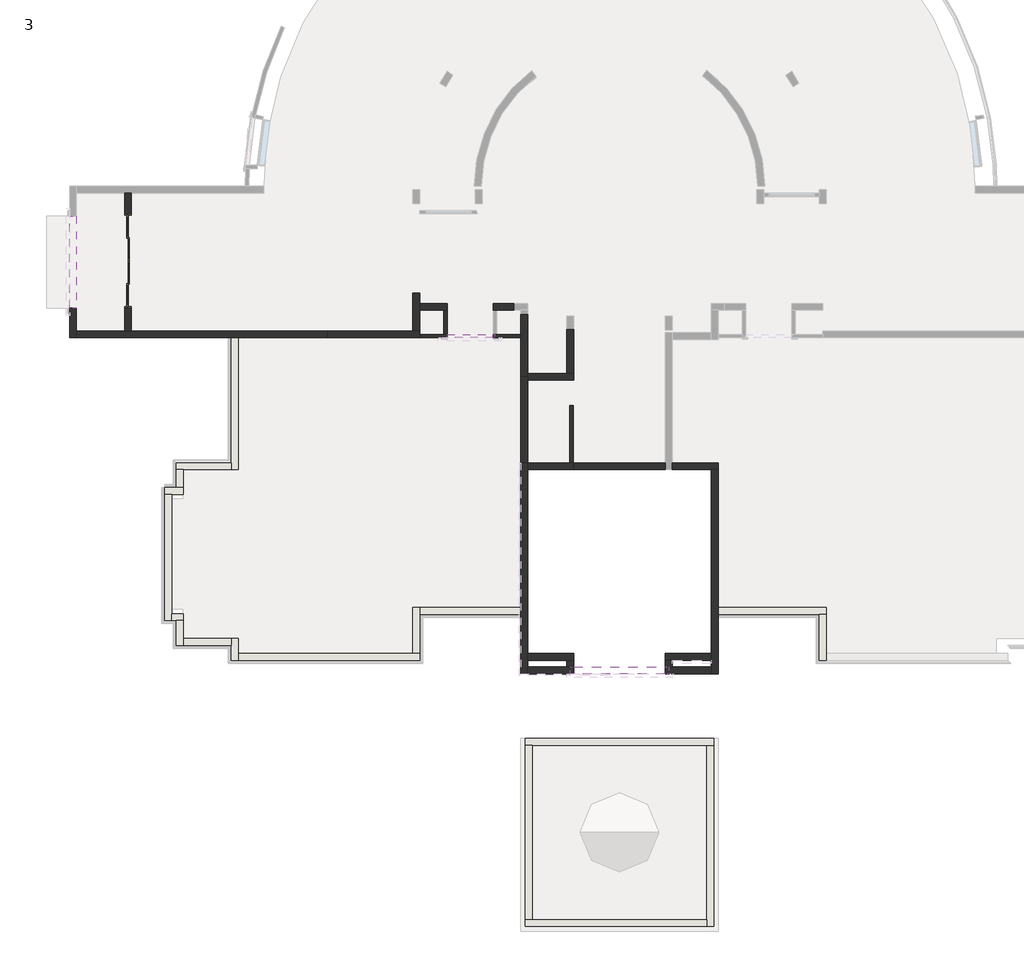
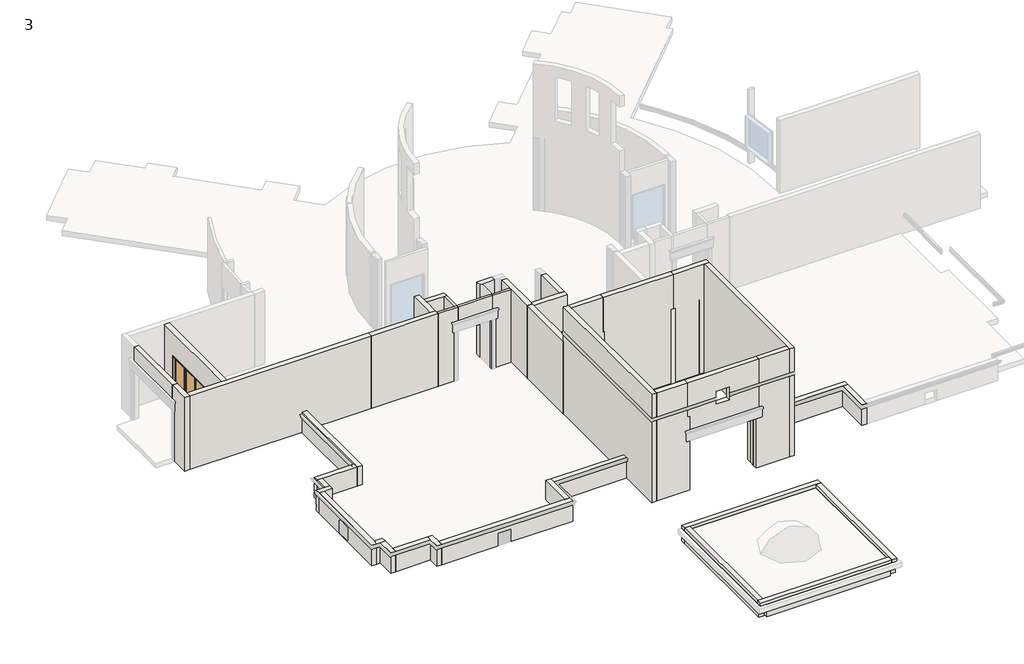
# One storey, part 1 of 12: 52 walls, 1 door.
"""IFC4 building model written with IfcOpenShell, lengths in millimetres."""

from ifc_helpers import new_model, si_unit, frame, origin, place, context, project, spatial, polyline, outline, extrude, faceted_brep, transform, mapped, element, save
from components import aus_sliding_door_4_panel_type_3_7ec97240

model = new_model("IFC4")

# Units and contexts
model_context = context("Model", 3, world=origin())
ifc_project = project(units=[si_unit("LENGTHUNIT", "METRE", prefix="MILLI")], contexts=[model_context])

# Site, building, storey
site = spatial("IfcSite", under=ifc_project)
building = spatial("IfcBuilding", under=site)
storey = spatial("IfcBuildingStorey", under=building, Name="3", Elevation=3581.4)

# Door
placement = place(None, origin())
aus_sliding_door_4_panel_type_3_shape = aus_sliding_door_4_panel_type_3_7ec97240(model_context)
element("IfcDoor", 1, ObjectType="AUS_Sliding Door 4 Panel : Type 3", at=placement, inside=storey, context=model_context, shape_type="MappedRepresentation", body=[
    mapped(aus_sliding_door_4_panel_type_3_shape, transform((-24695.3950906, -1857.8613299, 3581.4), x_axis=(0.0, -1.0, 0.0), y_axis=(1.0, 0.0, 0.0), z_axis=(0.0, 0.0, 1.0))),
])

# Walls
element("IfcWall", 2, ObjectType="115mm  BK WALL 3", at=placement, inside=storey, context=model_context, shape_type="Brep", body=[
    faceted_brep([(-15017.9950906, -4496.3193311, 3581.4), (-14103.5950906, -4496.3193311, 3581.4), (-14103.5950906, -4496.3193311, 6019.8), (-14103.5950906, -4496.3193311, 7162.8), (-15017.9950906, -4496.3193311, 7162.8), (-15017.9950906, -4382.0193311, 3581.4), (-15017.9950906, -4382.0193311, 7162.8), (-14217.8950906, -4382.0193311, 7162.8), (-14103.5950906, -4382.0193311, 7162.8), (-14103.5950906, -4382.0193311, 6019.8), (-14103.5950906, -4382.0193311, 3581.4), (-14217.8950906, -4382.0193311, 3581.4)], [[[0, 1, 2, 3, 4]], [[5, 6, 7, 8, 9, 10, 11]], [[1, 0, 5, 11, 10]], [[4, 3, 8, 7, 6]], [[1, 10, 9, 8, 3, 2]], [[0, 4, 6, 5]]]),
])
element("IfcWall", 3, ObjectType="115mm  BK WALL 3", at=placement, inside=storey, context=model_context, shape_type="SweptSolid", body=[
    extrude(outline(polyline([(-14217.8950906, -4382.0193311), (-14217.8950906, -3581.9193311), (-14103.5950906, -3581.9193311), (-14103.5950906, -4382.0193311), (-14217.8950906, -4382.0193311)])), frame((0.0, 0.0, 3581.4), z_axis=(0.0, 0.0, 1.0), x_axis=(1.0, 0.0, 0.0)), (0.0, 0.0, 1.0), 3581.4),
])
element("IfcWall", 4, ObjectType="115mm  BK WALL 3", at=placement, inside=storey, context=model_context, shape_type="Brep", body=[
    faceted_brep([(-12579.5950906, -4496.3193311, 3581.4), (-11665.1950906, -4496.3193311, 3581.4), (-11665.1950906, -4496.3193311, 7162.8), (-12522.4450906, -4496.3193311, 7162.8), (-12522.4450906, -4496.3193311, 6019.8), (-12579.5950906, -4496.3193311, 6019.8), (-12579.5950906, -4382.0193311, 3581.4), (-12579.5950906, -4382.0193311, 6019.8), (-12522.4450906, -4382.0193311, 6019.8), (-12522.4450906, -4382.0193311, 7162.8), (-12465.2950906, -4382.0193311, 7162.8), (-11665.1950906, -4382.0193311, 7162.8), (-11665.1950906, -4382.0193311, 3581.4), (-12465.2950906, -4382.0193311, 3581.4)], [[[0, 1, 2, 3, 4, 5]], [[6, 7, 8, 9, 10, 11, 12, 13]], [[1, 0, 6, 13, 12]], [[3, 2, 11, 10, 9]], [[4, 3, 9, 8]], [[4, 8, 7, 5]], [[0, 5, 7, 6]], [[2, 1, 12, 11]]]),
])
element("IfcWall", 5, ObjectType="115mm BK WALL", at=placement, inside=storey, context=model_context, shape_type="Brep", body=[
    faceted_brep([(-10030.7929814, -6744.2193311, 3581.4), (-10030.7929814, -8649.2193311, 3581.4), (-10030.7929814, -8649.2193311, 7162.8), (-10030.7929814, -6744.2193311, 7162.8), (-9916.4929814, -6744.2193311, 3581.4), (-9916.4929814, -6744.2193311, 7162.8), (-9916.4929814, -8649.2193311, 7162.8), (-9916.4929814, -8649.2193311, 3581.4), (-9973.6429814, -8649.2193311, 7162.8)], [[[0, 1, 2, 3]], [[4, 5, 6, 7]], [[1, 0, 4, 7]], [[3, 2, 8, 6, 5]], [[0, 3, 5, 4]], [[2, 1, 7, 6, 8]]]),
])
element("IfcWall", 6, ObjectType="115mm BK WALL", at=placement, inside=storey, context=model_context, shape_type="Brep", body=[
    faceted_brep([(-14103.5950906, -4496.3193311, 6019.8), (-12579.5950906, -4496.3193311, 6019.8), (-12522.4450906, -4496.3193311, 6019.8), (-12522.4450906, -4496.3193311, 7162.8), (-14103.5950906, -4496.3193311, 7162.8), (-14103.5950906, -4382.0193311, 6019.8), (-14103.5950906, -4382.0193311, 7162.8), (-12579.5950906, -4382.0193311, 7162.8), (-12522.4450906, -4382.0193311, 7162.8), (-12522.4450906, -4382.0193311, 6019.8), (-12579.5950906, -4382.0193311, 6019.8)], [[[0, 1, 2, 3, 4]], [[5, 6, 7, 8, 9, 10]], [[2, 1, 0, 5, 10, 9]], [[3, 2, 9, 8]], [[4, 3, 8, 7, 6]], [[0, 4, 6, 5]]]),
])
element("IfcWall", 7, ObjectType="230mm BK WALL", at=placement, inside=storey, context=model_context, shape_type="Brep", body=[
    faceted_brep([(-11436.5950906, -15202.4193311, 3581.4), (-10141.344385, -15202.4193311, 3581.4), (-10027.044385, -15202.4193311, 3581.4), (-9912.744385, -15202.4193311, 3581.4), (-9912.744385, -15202.4193311, 7162.8), (-10141.344385, -15202.4193311, 7162.8), (-11436.5950906, -15202.4193311, 7162.8), (-11436.5950906, -14973.8193311, 3581.4), (-11436.5950906, -14973.8193311, 7162.8), (-9912.744385, -14973.8193311, 7162.8), (-9912.744385, -14973.8193311, 3581.4), (-10027.044385, -14973.8193311, 3581.4)], [[[0, 1, 2, 3, 4, 5, 6]], [[7, 8, 9, 10, 11]], [[3, 2, 1, 0, 7, 11, 10]], [[6, 5, 4, 9, 8]], [[0, 6, 8, 7]], [[4, 3, 10, 9]]]),
])
element("IfcWall", 8, ObjectType="230mm BK WALL", at=placement, inside=storey, context=model_context, shape_type="Brep", body=[
    faceted_brep([(-26408.9780453, -4496.3193311, 3581.4), (-21266.3950906, -4496.3193311, 3581.4), (-21037.7950906, -4496.3193311, 3581.4), (-18086.0920469, -4496.3193311, 3581.4), (-18086.0920469, -4496.3193311, 7162.8), (-26408.9780453, -4496.3193311, 7162.8), (-26408.9780453, -4496.3193311, 3854.45), (-26408.9780453, -4496.3193311, 3733.8), (-18086.0920469, -4267.7193311, 3581.4), (-24581.0950906, -4267.7193311, 3581.4), (-24809.6950906, -4267.7193311, 3581.4), (-26408.9780453, -4267.7193311, 3581.4), (-26408.9780453, -4267.7193311, 7162.8), (-24809.6950906, -4267.7193311, 7162.8), (-24581.0950906, -4267.7193311, 7162.8), (-18086.0920469, -4267.7193311, 7162.8)], [[[0, 1, 2, 3, 4, 5, 6, 7]], [[8, 9, 10, 11, 12, 13, 14, 15]], [[3, 2, 1, 0, 11, 10, 9, 8]], [[4, 3, 8, 15]], [[5, 4, 15, 14, 13, 12]], [[5, 12, 11, 0, 7, 6]]]),
])
element("IfcWall", 9, ObjectType="230mm BK WALL", at=placement, inside=storey, context=model_context, shape_type="Brep", body=[
    faceted_brep([(-18086.0920469, -4496.3193311, 3581.4), (-15017.9950906, -4496.3193311, 3581.4), (-15017.9950906, -4496.3193311, 7162.8), (-18086.0920469, -4496.3193311, 7162.8), (-15017.9950906, -4267.7193311, 3581.4), (-15246.5950906, -4267.7193311, 3581.4), (-18086.0920469, -4267.7193311, 3581.4), (-18086.0920469, -4267.7193311, 7162.8), (-15246.5950906, -4267.7193311, 7162.8), (-15017.9950906, -4267.7193311, 7162.8), (-15017.9950906, -4382.0193311, 3581.4), (-15017.9950906, -4382.0193311, 7162.8)], [[[0, 1, 2, 3]], [[4, 5, 6, 7, 8, 9]], [[1, 0, 6, 5, 4, 10]], [[3, 2, 11, 9, 8, 7]], [[0, 3, 7, 6]], [[2, 1, 10, 4, 9, 11]]]),
])
element("IfcWall", 10, ObjectType="230mm BK WALL", at=placement, inside=storey, context=model_context, shape_type="Brep", body=[
    faceted_brep([(-15017.9950906, -4267.7193311, 3581.4), (-15017.9950906, -3581.9193311, 3581.4), (-15017.9950906, -3353.3193311, 3581.4), (-15017.9950906, -3010.4193311, 3581.4), (-15017.9950906, -3010.4193311, 7162.8), (-15017.9950906, -3353.3193311, 7162.8), (-15017.9950906, -3581.9193311, 7162.8), (-15017.9950906, -4267.7193311, 7162.8), (-15246.5950906, -4267.7193311, 3581.4), (-15246.5950906, -4267.7193311, 7162.8), (-15246.5950906, -3010.4193311, 7162.8), (-15246.5950906, -3010.4193311, 3581.4)], [[[0, 1, 2, 3, 4, 5, 6, 7]], [[8, 9, 10, 11]], [[3, 2, 1, 0, 8, 11]], [[4, 3, 11, 10]], [[7, 6, 5, 4, 10, 9]], [[0, 7, 9, 8]]]),
])
element("IfcWall", 11, ObjectType="230mm BK WALL", at=placement, inside=storey, context=model_context, shape_type="Brep", body=[
    faceted_brep([(-15017.9950906, -3581.9193311, 3581.4), (-14217.8950906, -3581.9193311, 3581.4), (-14103.5950906, -3581.9193311, 3581.4), (-14103.5950906, -3581.9193311, 7162.8), (-14217.8950906, -3581.9193311, 7162.8), (-15017.9950906, -3581.9193311, 7162.8), (-15017.9950906, -3353.3193311, 3581.4), (-15017.9950906, -3353.3193311, 7162.8), (-14103.5950906, -3353.3193311, 7162.8), (-14103.5950906, -3353.3193311, 3581.4)], [[[0, 1, 2, 3, 4, 5]], [[6, 7, 8, 9]], [[2, 1, 0, 6, 9]], [[5, 4, 3, 8, 7]], [[3, 2, 9, 8]], [[0, 5, 7, 6]]]),
])
element("IfcWall", 12, ObjectType="230mm BK WALL", at=placement, inside=storey, context=model_context, shape_type="SweptSolid", body=[
    extrude(outline(polyline([(304.2806689, 3581.4), (-379.6193311, 3581.4), (-379.6193311, 6059.8), (-3507.6193311, 6059.8), (-3507.6193311, 3581.4), (-4267.7193311, 3581.4), (-4267.7193311, 7162.8), (304.2806689, 7162.8), (304.2806689, 3581.4)])), frame((-24809.6950906, 0.0, 0.0), z_axis=(1.0, 0.0, 0.0), x_axis=(0.0, 1.0, 0.0)), (0.0, 0.0, 1.0), 228.6),
])
element("IfcWall", 13, ObjectType="230mm BK WALL", at=placement, inside=storey, context=model_context, shape_type="Brep", body=[
    faceted_brep([(-11436.5950906, -5906.0193311, 3581.4), (-9910.1429814, -5906.0193311, 3581.4), (-9910.1429814, -5906.0193311, 7162.8), (-11436.5950906, -5906.0193311, 7162.8), (-11436.5950906, -5677.4193311, 3581.4), (-11436.5950906, -5677.4193311, 7162.8), (-10141.1950906, -5677.4193311, 7162.8), (-9912.5950906, -5677.4193311, 7162.8), (-9910.1429814, -5677.4193311, 7162.8), (-9910.1429814, -5677.4193311, 3581.4), (-9912.5950906, -5677.4193311, 3581.4), (-10141.1950906, -5677.4193311, 3581.4), (-11436.5950906, -5791.7193311, 3581.4), (-11436.5950906, -5791.7193311, 7162.8)], [[[0, 1, 2, 3]], [[4, 5, 6, 7, 8, 9, 10, 11]], [[1, 0, 12, 4, 11, 10, 9]], [[2, 1, 9, 8]], [[3, 2, 8, 7, 6, 5, 13]], [[0, 3, 13, 5, 4, 12]]]),
])
element("IfcWall", 14, ObjectType="230mm BK WALL", at=placement, inside=storey, context=model_context, shape_type="SweptSolid", body=[
    extrude(outline(polyline([(-9912.5950906, -4231.2422692), (-9912.5950906, -5677.4193311), (-10141.1950906, -5677.4193311), (-10141.1950906, -4231.2422692), (-9912.5950906, -4231.2422692)])), frame((0.0, 0.0, 3581.4), z_axis=(0.0, 0.0, 1.0), x_axis=(1.0, 0.0, 0.0)), (0.0, 0.0, 1.0), 3581.4),
])
element("IfcWall", 15, ObjectType="230mm BK WALL", at=placement, inside=storey, context=model_context, shape_type="Brep", body=[
    faceted_brep([(-12579.5950906, -3581.9193311, 3581.4), (-12465.2950906, -3581.9193311, 3581.4), (-11890.1950906, -3581.9193311, 3581.4), (-11890.1950906, -3581.9193311, 7162.8), (-12465.2950906, -3581.9193311, 7162.8), (-12579.5950906, -3581.9193311, 7162.8), (-12579.5950906, -3353.3193311, 3581.4), (-12579.5950906, -3353.3193311, 7162.8), (-11890.1950906, -3353.3193311, 7162.8), (-11890.1950906, -3353.3193311, 3581.4)], [[[0, 1, 2, 3, 4, 5]], [[6, 7, 8, 9]], [[2, 1, 0, 6, 9]], [[3, 2, 9, 8]], [[5, 4, 3, 8, 7]], [[0, 5, 7, 6]]]),
])
element("IfcWall", 16, ObjectType="230mm BK WALL", at=placement, inside=storey, context=model_context, shape_type="Brep", body=[
    faceted_brep([(-11665.1950906, -5791.7193311, 3581.4), (-11665.1950906, -8649.2193311, 3581.4), (-11665.1950906, -8649.2193311, 7162.8), (-11665.1950906, -5791.7193311, 7162.8), (-11436.5950906, -5791.7193311, 3581.4), (-11436.5950906, -5791.7193311, 7162.8), (-11436.5950906, -5906.0193311, 7162.8), (-11436.5950906, -8649.2193311, 7162.8), (-11436.5950906, -8649.2193311, 3581.4), (-11436.5950906, -5906.0193311, 3581.4)], [[[0, 1, 2, 3]], [[4, 5, 6, 7, 8, 9]], [[1, 0, 4, 9, 8]], [[3, 2, 7, 6, 5]], [[0, 3, 5, 4]], [[2, 1, 8, 7]]]),
])
element("IfcWall", 17, ObjectType="230mm BK WALL", at=placement, inside=storey, context=model_context, shape_type="Brep", body=[
    faceted_brep([(-9912.744385, -15431.0193311, 3581.4), (-9912.744385, -15202.4193311, 3581.4), (-9912.744385, -15202.4193311, 7162.8), (-9912.744385, -15431.0193311, 7162.8), (-10141.344385, -15202.4193311, 3581.4), (-10141.344385, -15431.0193311, 3581.4), (-10141.344385, -15431.0193311, 7162.8), (-10141.344385, -15202.4193311, 7162.8), (-10141.344385, -15202.4193311, 6819.9), (-10141.344385, -15202.4193311, 6324.6), (-10027.044385, -15431.0193311, 7162.8)], [[[0, 1, 2, 3]], [[4, 5, 6, 7, 8, 9]], [[1, 0, 5, 4]], [[3, 2, 7, 6, 10]], [[5, 0, 3, 10, 6]], [[2, 1, 4, 9, 8, 7]]]),
])
element("IfcWall", 18, ObjectType="230mm BK WALL", at=placement, inside=storey, context=model_context, shape_type="Brep", body=[
    faceted_brep([(-6864.744385, -15202.4193311, 3581.4), (-6864.744385, -15431.0193311, 3581.4), (-6864.744385, -15431.0193311, 6019.8), (-6864.744385, -15431.0193311, 7162.8), (-6864.744385, -15202.4193311, 7162.8), (-6636.144385, -15431.0193311, 3581.4), (-6636.144385, -15202.4193311, 3581.4), (-6636.144385, -15202.4193311, 6324.6), (-6636.144385, -15202.4193311, 6819.9), (-6636.144385, -15202.4193311, 7162.8), (-6636.144385, -15431.0193311, 7162.8)], [[[0, 1, 2, 3, 4]], [[5, 6, 7, 8, 9, 10]], [[1, 0, 6, 5]], [[4, 3, 10, 9]], [[0, 4, 9, 8, 7, 6]], [[1, 5, 10, 3, 2]]]),
])
element("IfcWall", 19, ObjectType="230mm BK WALL", at=placement, inside=storey, context=model_context, shape_type="Brep", body=[
    faceted_brep([(-6864.744385, -15202.4193311, 3581.4), (-6636.144385, -15202.4193311, 3581.4), (-5340.5950906, -15202.4193311, 3581.4), (-5340.5950906, -15202.4193311, 7162.8), (-6636.144385, -15202.4193311, 7162.8), (-6864.744385, -15202.4193311, 7162.8), (-6864.744385, -14973.8193311, 3581.4), (-6864.744385, -14973.8193311, 7162.8), (-5340.5950906, -14973.8193311, 7162.8), (-5340.5950906, -14973.8193311, 3581.4)], [[[0, 1, 2, 3, 4, 5]], [[6, 7, 8, 9]], [[2, 1, 0, 6, 9]], [[5, 4, 3, 8, 7]], [[0, 5, 7, 6]], [[3, 2, 9, 8]]]),
])
element("IfcWall", 20, ObjectType="230mm BK WALL", at=placement, inside=storey, context=model_context, shape_type="Brep", body=[
    faceted_brep([(-26637.5780453, -3504.9181763, 3581.4), (-26637.5780453, -4496.3193311, 3581.4), (-26637.5780453, -4496.3193311, 3733.8), (-26637.5780453, -4496.3193311, 3854.45), (-26637.5780453, -4496.3193311, 7162.8), (-26637.5780453, -3504.9181763, 7162.8), (-26637.5780453, -3504.9181763, 6019.8), (-26637.5780453, -3504.9181763, 3854.45), (-26637.5780453, -3504.9181763, 3733.8), (-26408.9780453, -4496.3193311, 3581.4), (-26408.9780453, -4267.7193311, 3581.4), (-26408.9780453, -3504.9181763, 3581.4), (-26408.9780453, -3504.9181763, 6019.8), (-26408.9780453, -3504.9181763, 7162.8), (-26408.9780453, -4267.7193311, 7162.8), (-26408.9780453, -4496.3193311, 7162.8), (-26408.9780453, -4496.3193311, 3854.45), (-26408.9780453, -4496.3193311, 3733.8)], [[[0, 1, 2, 3, 4, 5, 6, 7, 8]], [[9, 10, 11, 12, 13, 14, 15, 16, 17]], [[1, 0, 11, 10, 9]], [[5, 4, 15, 14, 13]], [[13, 12, 11, 0, 8, 7, 6, 5]], [[1, 9, 17, 16, 15, 4, 3, 2]]]),
])
element("IfcWall", 21, ObjectType="230mm BK WALL", at=placement, inside=storey, context=model_context, shape_type="Brep", body=[
    faceted_brep([(-11665.1950906, -3734.3193311, 3581.4), (-11665.1950906, -4382.0193311, 3581.4), (-11665.1950906, -4496.3193311, 3581.4), (-11665.1950906, -5791.7193311, 3581.4), (-11665.1950906, -5791.7193311, 7162.8), (-11665.1950906, -4496.3193311, 7162.8), (-11665.1950906, -4382.0193311, 7162.8), (-11665.1950906, -3734.3193311, 7162.8), (-11436.5950906, -3734.3193311, 3581.4), (-11436.5950906, -3734.3193311, 7162.8), (-11436.5950906, -5677.4193311, 7162.8), (-11436.5950906, -5791.7193311, 7162.8), (-11436.5950906, -5791.7193311, 3581.4), (-11436.5950906, -5677.4193311, 3581.4)], [[[0, 1, 2, 3, 4, 5, 6, 7]], [[8, 9, 10, 11, 12, 13]], [[3, 2, 1, 0, 8, 13, 12]], [[4, 3, 12, 11]], [[7, 6, 5, 4, 11, 10, 9]], [[0, 7, 9, 8]]]),
])
element("IfcWall", 22, ObjectType="230mm BK WALL", at=placement, inside=storey, context=model_context, shape_type="SweptSolid", body=[
    extrude(outline(polyline([(-26408.9780453, -456.9181763), (-26408.9780453, -3504.9181763), (-26637.5780453, -3504.9181763), (-26637.5780453, -456.9181763), (-26408.9780453, -456.9181763)])), frame((0.0, 0.0, 6019.8), z_axis=(0.0, 0.0, 1.0), x_axis=(1.0, 0.0, 0.0)), (0.0, 0.0, 1.0), 1143.0),
])
element("IfcWall", 23, ObjectType="230mm BK WALL 2", at=placement, inside=storey, context=model_context, shape_type="Brep", body=[
    faceted_brep([(-6635.9950906, -8877.8193311, 3581.4), (-5340.5950906, -8877.8193311, 3581.4), (-5111.9950906, -8877.8193311, 3581.4), (-5111.9950906, -8877.8193311, 8832.8985096), (-5340.5950906, -8877.8193311, 8832.8985096), (-6750.2950906, -8877.8193311, 8832.8985096), (-6750.2950906, -8877.8193311, 7162.8), (-6635.9950906, -8877.8193311, 7162.8), (-6635.9950906, -8649.2193311, 3581.4), (-6635.9950906, -8649.2193311, 7162.8), (-6750.2950906, -8649.2193311, 7162.8), (-6750.2950906, -8649.2193311, 8832.8985096), (-5111.9950906, -8649.2193311, 8832.8985096), (-5111.9950906, -8649.2193311, 3581.4)], [[[0, 1, 2, 3, 4, 5, 6, 7]], [[8, 9, 10, 11, 12, 13]], [[2, 1, 0, 8, 13]], [[5, 4, 3, 12, 11]], [[3, 2, 13, 12]], [[6, 10, 9, 7]], [[5, 11, 10, 6]], [[0, 7, 9, 8]]]),
])
element("IfcWall", 24, ObjectType="230mm BK WALL 2", at=placement, inside=storey, context=model_context, shape_type="Brep", body=[
    faceted_brep([(-5340.5950906, -8877.8193311, 3581.4), (-5340.5950906, -14973.8193311, 3581.4), (-5340.5950906, -15202.4193311, 3581.4), (-5340.5950906, -15431.0193311, 3581.4), (-5340.5950906, -15659.6193311, 3581.4), (-5340.5950906, -15659.6193311, 7543.8), (-5340.5950906, -15659.6193311, 7664.45), (-5340.5950906, -15659.6193311, 8832.8985096), (-5340.5950906, -15431.0193311, 8832.8985096), (-5340.5950906, -8877.8193311, 8832.8985096), (-5111.9950906, -15659.6193311, 3581.4), (-5111.9950906, -13677.6181763, 3581.4), (-5111.9950906, -13449.0181763, 3581.4), (-5111.9950906, -8877.8193311, 3581.4), (-5111.9950906, -8877.8193311, 8832.8985096), (-5111.9950906, -15659.6193311, 8832.8985096), (-5111.9950906, -15659.6193311, 7664.45), (-5111.9950906, -15659.6193311, 7543.8)], [[[0, 1, 2, 3, 4, 5, 6, 7, 8, 9]], [[10, 11, 12, 13, 14, 15, 16, 17]], [[4, 3, 2, 1, 0, 13, 12, 11, 10]], [[9, 8, 7, 15, 14]], [[4, 10, 17, 16, 15, 7, 6, 5]], [[0, 9, 14, 13]]]),
])
element("IfcWall", 25, ObjectType="230mm BK WALL 2", at=placement, inside=storey, context=model_context, shape_type="Brep", body=[
    faceted_brep([(-11665.1950906, -8649.2193311, 3581.4), (-11665.1950906, -13449.0181763, 3581.4), (-11665.1950906, -13677.6181763, 3581.4), (-11665.1950906, -15659.6193311, 3581.4), (-11665.1950906, -15659.6193311, 7543.8), (-11665.1950906, -15659.6193311, 7664.45), (-11665.1950906, -15659.6193311, 8832.8985096), (-11665.1950906, -8649.2193311, 8832.8985096), (-11665.1950906, -8649.2193311, 7664.45), (-11665.1950906, -8649.2193311, 7543.8), (-11665.1950906, -8649.2193311, 7162.8), (-11436.5950906, -15659.6193311, 3581.4), (-11436.5950906, -15431.0193311, 3581.4), (-11436.5950906, -15202.4193311, 3581.4), (-11436.5950906, -14973.8193311, 3581.4), (-11436.5950906, -8877.8193311, 3581.4), (-11436.5950906, -8649.2193311, 3581.4), (-11436.5950906, -8649.2193311, 7162.8), (-11436.5950906, -8649.2193311, 8832.8985096), (-11436.5950906, -8877.8193311, 8832.8985096), (-11436.5950906, -15431.0193311, 8832.8985096), (-11436.5950906, -15659.6193311, 8832.8985096), (-11436.5950906, -15659.6193311, 7664.45), (-11436.5950906, -15659.6193311, 7543.8)], [[[0, 1, 2, 3, 4, 5, 6, 7, 8, 9, 10]], [[11, 12, 13, 14, 15, 16, 17, 18, 19, 20, 21, 22, 23]], [[3, 2, 1, 0, 16, 15, 14, 13, 12, 11]], [[7, 6, 21, 20, 19, 18]], [[3, 11, 23, 22, 21, 6, 5, 4]], [[16, 0, 10, 9, 8, 7, 18, 17]]]),
])
element("IfcWall", 26, ObjectType="230mm BK WALL 2", at=placement, inside=storey, context=model_context, shape_type="Brep", body=[
    faceted_brep([(-11436.5950906, -8877.8193311, 8832.8985096), (-11436.5950906, -8877.8193311, 3581.4), (-9916.4929814, -8877.8193311, 3581.4), (-9916.4929814, -8877.8193311, 7162.8), (-9973.6429814, -8877.8193311, 7162.8), (-9973.6429814, -8877.8193311, 8832.8985096), (-11436.5950906, -8649.2193311, 3581.4), (-11436.5950906, -8649.2193311, 8832.8985096), (-9973.6429814, -8649.2193311, 8832.8985096), (-9973.6429814, -8649.2193311, 7162.8), (-9916.4929814, -8649.2193311, 7162.8), (-9916.4929814, -8649.2193311, 3581.4), (-10030.7929814, -8649.2193311, 3581.4)], [[[0, 1, 2, 3, 4, 5]], [[6, 7, 8, 9, 10, 11, 12]], [[2, 1, 6, 12, 11]], [[0, 5, 8, 7]], [[5, 4, 9, 8]], [[9, 4, 3, 10]], [[3, 2, 11, 10]], [[0, 7, 6, 1]]]),
])
element("IfcWall", 27, ObjectType="230mm BK WALL 2", at=placement, inside=storey, context=model_context, shape_type="Brep", body=[
    faceted_brep([(-11436.5950906, -15659.6193311, 3581.4), (-9912.744385, -15659.6193311, 3581.4), (-9912.744385, -15659.6193311, 6019.8), (-9912.744385, -15659.6193311, 7162.8), (-10027.044385, -15659.6193311, 7162.8), (-10027.044385, -15659.6193311, 7543.8), (-10027.044385, -15659.6193311, 7664.45), (-10027.044385, -15659.6193311, 8832.8985096), (-11436.5950906, -15659.6193311, 8832.8985096), (-11436.5950906, -15659.6193311, 7664.45), (-11436.5950906, -15659.6193311, 7543.8), (-9912.744385, -15431.0193311, 3581.4), (-10141.344385, -15431.0193311, 3581.4), (-11436.5950906, -15431.0193311, 3581.4), (-11436.5950906, -15431.0193311, 8832.8985096), (-10027.044385, -15431.0193311, 8832.8985096), (-10027.044385, -15431.0193311, 7162.8), (-9912.744385, -15431.0193311, 7162.8), (-9912.744385, -15431.0193311, 6019.8)], [[[0, 1, 2, 3, 4, 5, 6, 7, 8, 9, 10]], [[11, 12, 13, 14, 15, 16, 17, 18]], [[1, 0, 13, 12, 11]], [[8, 7, 15, 14]], [[15, 7, 6, 5, 4, 16]], [[16, 4, 3, 17]], [[1, 11, 18, 17, 3, 2]], [[8, 14, 13, 0, 10, 9]]]),
])
element("IfcWall", 28, ObjectType="230mm BK WALL 2", at=placement, inside=storey, context=model_context, shape_type="Brep", body=[
    faceted_brep([(-6864.744385, -15659.6193311, 3581.4), (-5340.5950906, -15659.6193311, 3581.4), (-5340.5950906, -15659.6193311, 8832.8985096), (-6750.444385, -15659.6193311, 8832.8985096), (-6750.444385, -15659.6193311, 6019.8), (-6864.744385, -15659.6193311, 6019.8), (-6864.744385, -15431.0193311, 3581.4), (-6864.744385, -15431.0193311, 6019.8), (-6750.444385, -15431.0193311, 6019.8), (-6750.444385, -15431.0193311, 8832.8985096), (-5340.5950906, -15431.0193311, 8832.8985096), (-5340.5950906, -15431.0193311, 3581.4), (-6636.144385, -15431.0193311, 3581.4)], [[[0, 1, 2, 3, 4, 5]], [[6, 7, 8, 9, 10, 11, 12]], [[1, 0, 6, 12, 11]], [[3, 2, 10, 9]], [[4, 8, 7, 5]], [[3, 9, 8, 4]], [[0, 5, 7, 6]], [[2, 1, 11, 10]]]),
])
element("IfcWall", 29, ObjectType="230mm BK WALL 2", at=placement, inside=storey, context=model_context, shape_type="SweptSolid", body=[
    extrude(outline(polyline([(3581.4, -9916.4929814), (3581.4, -6864.5950906), (7162.8, -6864.5950906), (7162.8, -6750.2950906), (8832.8985096, -6750.2950906), (8832.8985096, -9973.6429814), (7162.8, -9973.6429814), (7162.8, -9916.4929814), (3581.4, -9916.4929814)])), frame((0.0, -8877.8193311, 0.0), z_axis=(0.0, 1.0, 0.0), x_axis=(0.0, 0.0, 1.0)), (0.0, 0.0, 1.0), 228.6),
])
element("IfcWall", 30, ObjectType="230mm BK WALL 2", at=placement, inside=storey, context=model_context, shape_type="Brep", body=[
    faceted_brep([(-9912.744385, -15659.6193311, 6019.8), (-6864.744385, -15659.6193311, 6019.8), (-6750.444385, -15659.6193311, 6019.8), (-6750.444385, -15659.6193311, 8832.8985096), (-10027.044385, -15659.6193311, 8832.8985096), (-10027.044385, -15659.6193311, 7162.8), (-9912.744385, -15659.6193311, 7162.8), (-8096.4950906, -15659.6193311, 7943.85), (-8096.4950906, -15659.6193311, 7325.4793937), (-8693.3950906, -15659.6193311, 7325.4793937), (-8693.3950906, -15659.6193311, 7943.85), (-9912.744385, -15431.0193311, 6019.8), (-9912.744385, -15431.0193311, 7162.8), (-10027.044385, -15431.0193311, 7162.8), (-10027.044385, -15431.0193311, 8832.8985096), (-6750.444385, -15431.0193311, 8832.8985096), (-6750.444385, -15431.0193311, 6019.8), (-6864.744385, -15431.0193311, 6019.8), (-8096.4950906, -15431.0193311, 7943.85), (-8693.3950906, -15431.0193311, 7943.85), (-8693.3950906, -15431.0193311, 7325.4793937), (-8096.4950906, -15431.0193311, 7325.4793937)], [[[0, 1, 2, 3, 4, 5, 6], [7, 8, 9, 10]], [[11, 12, 13, 14, 15, 16, 17], [18, 19, 20, 21]], [[2, 1, 0, 11, 17, 16]], [[4, 3, 15, 14]], [[8, 7, 18, 21]], [[9, 8, 21, 20]], [[10, 9, 20, 19]], [[7, 10, 19, 18]], [[5, 4, 14, 13]], [[5, 13, 12, 6]], [[0, 6, 12, 11]], [[2, 16, 15, 3]]]),
])
element("IfcWall", 31, ObjectType="PARAPET", at=placement, inside=storey, context=model_context, shape_type="Brep", body=[
    faceted_brep([(-21266.3950906, -4496.3193311, 3581.4), (-21266.3950906, -8649.2193311, 3581.4), (-21266.3950906, -8877.8193311, 3581.4), (-21266.3950906, -8877.8193311, 4572.0), (-21266.3950906, -8649.2193311, 4572.0), (-21266.3950906, -4496.3193311, 4572.0), (-21037.7950906, -4496.3193311, 3581.4), (-21037.7950906, -4496.3193311, 4572.0), (-21037.7950906, -8877.8193311, 4572.0), (-21037.7950906, -8877.8193311, 3581.4)], [[[0, 1, 2, 3, 4, 5]], [[6, 7, 8, 9]], [[2, 1, 0, 6, 9]], [[5, 4, 3, 8, 7]], [[3, 2, 9, 8]], [[0, 5, 7, 6]]]),
])
element("IfcWall", 32, ObjectType="PARAPET", at=placement, inside=storey, context=model_context, shape_type="Brep", body=[
    faceted_brep([(-21266.3950906, -8649.2193311, 3581.4), (-23095.1950906, -8649.2193311, 3581.4), (-23095.1950906, -8649.2193311, 3733.8), (-23095.1950906, -8649.2193311, 3854.45), (-23095.1950906, -8649.2193311, 4343.4), (-23095.1950906, -8649.2193311, 4495.8), (-23095.1950906, -8649.2193311, 4572.0), (-21266.3950906, -8649.2193311, 4572.0), (-21266.3950906, -8649.2193311, 4495.8), (-21266.3950906, -8649.2193311, 4343.4), (-21266.3950906, -8649.2193311, 3854.45), (-21266.3950906, -8649.2193311, 3733.8), (-23095.1950906, -8877.8193311, 3581.4), (-22866.5950906, -8877.8193311, 3581.4), (-21266.3950906, -8877.8193311, 3581.4), (-21266.3950906, -8877.8193311, 4572.0), (-22866.5950906, -8877.8193311, 4572.0), (-23095.1950906, -8877.8193311, 4572.0), (-23095.1950906, -8877.8193311, 4495.8), (-23095.1950906, -8877.8193311, 4343.4), (-23095.1950906, -8877.8193311, 3854.45), (-23095.1950906, -8877.8193311, 3733.8)], [[[0, 1, 2, 3, 4, 5, 6, 7, 8, 9, 10, 11]], [[12, 13, 14, 15, 16, 17, 18, 19, 20, 21]], [[1, 0, 14, 13, 12]], [[7, 6, 17, 16, 15]], [[1, 12, 21, 20, 19, 18, 17, 6, 5, 4, 3, 2]], [[7, 15, 14, 0, 11, 10, 9, 8]]]),
])
element("IfcWall", 33, ObjectType="PARAPET", at=placement, inside=storey, context=model_context, shape_type="Brep", body=[
    faceted_brep([(-23095.1950906, -8877.8193311, 3581.4), (-23095.1950906, -9467.5681763, 3581.4), (-23095.1950906, -9467.5681763, 3733.8), (-23095.1950906, -9467.5681763, 3854.45), (-23095.1950906, -9467.5681763, 4343.4), (-23095.1950906, -9467.5681763, 4495.8), (-23095.1950906, -9467.5681763, 4572.0), (-23095.1950906, -8877.8193311, 4572.0), (-23095.1950906, -8877.8193311, 4495.8), (-23095.1950906, -8877.8193311, 4343.4), (-23095.1950906, -8877.8193311, 3854.45), (-23095.1950906, -8877.8193311, 3733.8), (-22866.5950906, -9467.5681763, 3581.4), (-22866.5950906, -8877.8193311, 3581.4), (-22866.5950906, -8877.8193311, 4572.0), (-22866.5950906, -9467.5681763, 4572.0)], [[[0, 1, 2, 3, 4, 5, 6, 7, 8, 9, 10, 11]], [[12, 13, 14, 15]], [[1, 0, 13, 12]], [[7, 6, 15, 14]], [[7, 14, 13, 0, 11, 10, 9, 8]], [[1, 12, 15, 6, 5, 4, 3, 2]]]),
])
element("IfcWall", 34, ObjectType="PARAPET", at=placement, inside=storey, context=model_context, shape_type="Brep", body=[
    faceted_brep([(-22866.5950906, -9467.5681763, 3581.4), (-23095.1950906, -9467.5681763, 3581.4), (-23476.3608197, -9467.5681763, 3581.4), (-23476.3608197, -9467.5681763, 3733.8), (-23476.3608197, -9467.5681763, 3854.45), (-23476.3608197, -9467.5681763, 4419.6), (-23476.3608197, -9467.5681763, 4572.0), (-23095.1950906, -9467.5681763, 4572.0), (-22866.5950906, -9467.5681763, 4572.0), (-23476.3608197, -9696.1681763, 3581.4), (-23247.7608197, -9696.1681763, 3581.4), (-22866.5950906, -9696.1681763, 3581.4), (-22866.5950906, -9696.1681763, 4572.0), (-23247.7608197, -9696.1681763, 4572.0), (-23476.3608197, -9696.1681763, 4572.0), (-23476.3608197, -9696.1681763, 4419.6), (-23476.3608197, -9696.1681763, 3854.45), (-23476.3608197, -9696.1681763, 3733.8)], [[[0, 1, 2, 3, 4, 5, 6, 7, 8]], [[9, 10, 11, 12, 13, 14, 15, 16, 17]], [[2, 1, 0, 11, 10, 9]], [[8, 7, 6, 14, 13, 12]], [[0, 8, 12, 11]], [[2, 9, 17, 16, 15, 14, 6, 5, 4, 3]]]),
])
element("IfcWall", 35, ObjectType="PARAPET", at=placement, inside=storey, context=model_context, shape_type="Brep", body=[
    faceted_brep([(-23476.3608197, -9696.1681763, 3581.4), (-23476.3608197, -13887.1681763, 3581.4), (-23476.3608197, -13887.1681763, 3733.8), (-23476.3608197, -13887.1681763, 3854.45), (-23476.3608197, -13887.1681763, 4419.6), (-23476.3608197, -13887.1681763, 4572.0), (-23476.3608197, -9696.1681763, 4572.0), (-23476.3608197, -9696.1681763, 4419.6), (-23476.3608197, -9696.1681763, 3854.45), (-23476.3608197, -9696.1681763, 3733.8), (-23476.3608197, -11963.5187537, 3657.6), (-23476.3608197, -11353.9187537, 3657.6), (-23476.3608197, -11353.9187537, 3733.8), (-23476.3608197, -11353.9187537, 3854.45), (-23476.3608197, -11353.9187537, 4267.2), (-23476.3608197, -11963.5187537, 4267.2), (-23476.3608197, -11963.5187537, 3854.45), (-23476.3608197, -11963.5187537, 3733.8), (-23247.7608197, -13887.1681763, 3581.4), (-23247.7608197, -13658.5681763, 3581.4), (-23247.7608197, -9696.1681763, 3581.4), (-23247.7608197, -9696.1681763, 4572.0), (-23247.7608197, -13658.5681763, 4572.0), (-23247.7608197, -13887.1681763, 4572.0), (-23247.7608197, -13887.1681763, 4419.6), (-23247.7608197, -13887.1681763, 3854.45), (-23247.7608197, -13887.1681763, 3733.8), (-23247.7608197, -11963.5187537, 3657.6), (-23247.7608197, -11963.5187537, 4267.2), (-23247.7608197, -11353.9187537, 4267.2), (-23247.7608197, -11353.9187537, 3657.6)], [[[0, 1, 2, 3, 4, 5, 6, 7, 8, 9], [10, 11, 12, 13, 14, 15, 16, 17]], [[18, 19, 20, 21, 22, 23, 24, 25, 26], [27, 28, 29, 30]], [[1, 0, 20, 19, 18]], [[6, 5, 23, 22, 21]], [[28, 27, 10, 17, 16, 15]], [[11, 10, 27, 30]], [[30, 29, 14, 13, 12, 11]], [[15, 14, 29, 28]], [[1, 18, 26, 25, 24, 23, 5, 4, 3, 2]], [[6, 21, 20, 0, 9, 8, 7]]]),
])
element("IfcWall", 36, ObjectType="PARAPET", at=placement, inside=storey, context=model_context, shape_type="Brep", body=[
    faceted_brep([(-23247.7608197, -13887.1681763, 3581.4), (-23095.1950906, -13887.1681763, 3581.4), (-22866.5950906, -13887.1681763, 3581.4), (-22866.5950906, -13887.1681763, 4572.0), (-23095.1950906, -13887.1681763, 4572.0), (-23247.7608197, -13887.1681763, 4572.0), (-23247.7608197, -13887.1681763, 4419.6), (-23247.7608197, -13887.1681763, 3854.45), (-23247.7608197, -13887.1681763, 3733.8), (-22866.5950906, -13658.5681763, 3581.4), (-23247.7608197, -13658.5681763, 3581.4), (-23247.7608197, -13658.5681763, 4572.0), (-22866.5950906, -13658.5681763, 4572.0)], [[[0, 1, 2, 3, 4, 5, 6, 7, 8]], [[9, 10, 11, 12]], [[2, 1, 0, 10, 9]], [[12, 11, 5, 4, 3]], [[3, 2, 9, 12]], [[5, 11, 10, 0, 8, 7, 6]]]),
])
element("IfcWall", 37, ObjectType="PARAPET", at=placement, inside=storey, context=model_context, shape_type="Brep", body=[
    faceted_brep([(-23095.1950906, -13887.1681763, 3581.4), (-23095.1950906, -14707.1193311, 3581.4), (-23095.1950906, -14707.1193311, 3733.8), (-23095.1950906, -14707.1193311, 3854.45), (-23095.1950906, -14707.1193311, 4419.6), (-23095.1950906, -14707.1193311, 4572.0), (-23095.1950906, -13887.1681763, 4572.0), (-23095.1950906, -13887.1681763, 4419.6), (-23095.1950906, -13887.1681763, 3854.45), (-23095.1950906, -13887.1681763, 3733.8), (-22866.5950906, -14707.1193311, 3581.4), (-22866.5950906, -14478.5193311, 3581.4), (-22866.5950906, -13887.1681763, 3581.4), (-22866.5950906, -13887.1681763, 4572.0), (-22866.5950906, -14478.5193311, 4572.0), (-22866.5950906, -14707.1193311, 4572.0), (-22866.5950906, -14707.1193311, 4419.6), (-22866.5950906, -14707.1193311, 3854.45), (-22866.5950906, -14707.1193311, 3733.8)], [[[0, 1, 2, 3, 4, 5, 6, 7, 8, 9]], [[10, 11, 12, 13, 14, 15, 16, 17, 18]], [[1, 0, 12, 11, 10]], [[6, 5, 15, 14, 13]], [[1, 10, 18, 17, 16, 15, 5, 4, 3, 2]], [[6, 13, 12, 0, 9, 8, 7]]]),
])
element("IfcWall", 38, ObjectType="PARAPET", at=placement, inside=storey, context=model_context, shape_type="Brep", body=[
    faceted_brep([(-22866.5950906, -14707.1193311, 3581.4), (-21266.3950906, -14707.1193311, 3581.4), (-21266.3950906, -14707.1193311, 3733.8), (-21266.3950906, -14707.1193311, 3854.45), (-21266.3950906, -14707.1193311, 4419.6), (-21266.3950906, -14707.1193311, 4572.0), (-22866.5950906, -14707.1193311, 4572.0), (-22866.5950906, -14707.1193311, 4419.6), (-22866.5950906, -14707.1193311, 3854.45), (-22866.5950906, -14707.1193311, 3733.8), (-21266.3950906, -14478.5193311, 3581.4), (-22866.5950906, -14478.5193311, 3581.4), (-22866.5950906, -14478.5193311, 4572.0), (-21266.3950906, -14478.5193311, 4572.0)], [[[0, 1, 2, 3, 4, 5, 6, 7, 8, 9]], [[10, 11, 12, 13]], [[1, 0, 11, 10]], [[6, 5, 13, 12]], [[6, 12, 11, 0, 9, 8, 7]], [[1, 10, 13, 5, 4, 3, 2]]]),
])
element("IfcWall", 39, ObjectType="PARAPET", at=placement, inside=storey, context=model_context, shape_type="Brep", body=[
    faceted_brep([(-21266.3950906, -14478.5193311, 3581.4), (-21266.3950906, -14707.1193311, 3581.4), (-21266.3950906, -15202.4193311, 3581.4), (-21266.3950906, -15202.4193311, 3733.8), (-21266.3950906, -15202.4193311, 3854.45), (-21266.3950906, -15202.4193311, 4419.6), (-21266.3950906, -15202.4193311, 4572.0), (-21266.3950906, -14707.1193311, 4572.0), (-21266.3950906, -14478.5193311, 4572.0), (-21037.7950906, -15202.4193311, 3581.4), (-21037.7950906, -14973.8193311, 3581.4), (-21037.7950906, -14478.5193311, 3581.4), (-21037.7950906, -14478.5193311, 4572.0), (-21037.7950906, -14973.8193311, 4572.0), (-21037.7950906, -15202.4193311, 4572.0), (-21037.7950906, -15202.4193311, 4419.6), (-21037.7950906, -15202.4193311, 3854.45), (-21037.7950906, -15202.4193311, 3733.8)], [[[0, 1, 2, 3, 4, 5, 6, 7, 8]], [[9, 10, 11, 12, 13, 14, 15, 16, 17]], [[2, 1, 0, 11, 10, 9]], [[14, 13, 12, 8, 7, 6]], [[0, 8, 12, 11]], [[2, 9, 17, 16, 15, 14, 6, 5, 4, 3]]]),
])
element("IfcWall", 40, ObjectType="PARAPET", at=placement, inside=storey, context=model_context, shape_type="Brep", body=[
    faceted_brep([(-21037.7950906, -15202.4193311, 3581.4), (-18447.144385, -15202.4193311, 3581.4), (-18447.144385, -15202.4193311, 3733.8), (-18447.144385, -15202.4193311, 3854.45), (-18447.144385, -15202.4193311, 4191.0), (-17837.544385, -15202.4193311, 4191.0), (-17837.544385, -15202.4193311, 3854.45), (-17837.544385, -15202.4193311, 3733.8), (-17837.544385, -15202.4193311, 3581.4), (-15017.9950906, -15202.4193311, 3581.4), (-15017.9950906, -15202.4193311, 3733.8), (-15017.9950906, -15202.4193311, 3854.45), (-15017.9950906, -15202.4193311, 4419.6), (-15017.9950906, -15202.4193311, 4572.0), (-21037.7950906, -15202.4193311, 4572.0), (-21037.7950906, -15202.4193311, 4419.6), (-21037.7950906, -15202.4193311, 3854.45), (-21037.7950906, -15202.4193311, 3733.8), (-18447.144385, -14973.8193311, 3581.4), (-21037.7950906, -14973.8193311, 3581.4), (-21037.7950906, -14973.8193311, 4572.0), (-15246.5950906, -14973.8193311, 4572.0), (-15017.9950906, -14973.8193311, 4572.0), (-15017.9950906, -14973.8193311, 4419.6), (-15017.9950906, -14973.8193311, 3854.45), (-15017.9950906, -14973.8193311, 3733.8), (-15017.9950906, -14973.8193311, 3581.4), (-15246.5950906, -14973.8193311, 3581.4), (-17837.544385, -14973.8193311, 3581.4), (-17837.544385, -14973.8193311, 4191.0), (-18447.144385, -14973.8193311, 4191.0)], [[[0, 1, 2, 3, 4, 5, 6, 7, 8, 9, 10, 11, 12, 13, 14, 15, 16, 17]], [[18, 19, 20, 21, 22, 23, 24, 25, 26, 27, 28, 29, 30]], [[1, 0, 19, 18]], [[18, 30, 4, 3, 2, 1]], [[5, 4, 30, 29]], [[29, 28, 8, 7, 6, 5]], [[9, 8, 28, 27, 26]], [[14, 13, 22, 21, 20]], [[9, 26, 25, 24, 23, 22, 13, 12, 11, 10]], [[14, 20, 19, 0, 17, 16, 15]]]),
])
element("IfcWall", 41, ObjectType="PARAPET", at=placement, inside=storey, context=model_context, shape_type="Brep", body=[
    faceted_brep([(-15017.9950906, -14973.8193311, 3581.4), (-15017.9950906, -13677.6181763, 3581.4), (-15017.9950906, -13449.0181763, 3581.4), (-15017.9950906, -13449.0181763, 4572.0), (-15017.9950906, -13677.6181763, 4572.0), (-15017.9950906, -14973.8193311, 4572.0), (-15017.9950906, -14973.8193311, 4419.6), (-15017.9950906, -14973.8193311, 3854.45), (-15017.9950906, -14973.8193311, 3733.8), (-15246.5950906, -13449.0181763, 3581.4), (-15246.5950906, -14973.8193311, 3581.4), (-15246.5950906, -14973.8193311, 4572.0), (-15246.5950906, -13449.0181763, 4572.0)], [[[0, 1, 2, 3, 4, 5, 6, 7, 8]], [[9, 10, 11, 12]], [[2, 1, 0, 10, 9]], [[12, 11, 5, 4, 3]], [[3, 2, 9, 12]], [[5, 11, 10, 0, 8, 7, 6]]]),
])
element("IfcWall", 42, ObjectType="PARAPET", at=placement, inside=storey, context=model_context, shape_type="SweptSolid", body=[
    extrude(outline(polyline([(-11665.1950906, -13677.6181763), (-15017.9950906, -13677.6181763), (-15017.9950906, -13449.0181763), (-11665.1950906, -13449.0181763), (-11665.1950906, -13677.6181763)])), frame((0.0, 0.0, 3581.4), z_axis=(0.0, 0.0, 1.0), x_axis=(1.0, 0.0, 0.0)), (0.0, 0.0, 1.0), 990.6),
])
element("IfcWall", 43, ObjectType="PARAPET", at=placement, inside=storey, context=model_context, shape_type="Brep", body=[
    faceted_brep([(-5111.9950906, -13677.6181763, 3581.4), (-1759.1950906, -13677.6181763, 3581.4), (-1530.5950906, -13677.6181763, 3581.4), (-1530.5950906, -13677.6181763, 4572.0), (-1759.1950906, -13677.6181763, 4572.0), (-5111.9950906, -13677.6181763, 4572.0), (-5111.9950906, -13449.0181763, 3581.4), (-5111.9950906, -13449.0181763, 4572.0), (-1530.5950906, -13449.0181763, 4572.0), (-1530.5950906, -13449.0181763, 3581.4)], [[[0, 1, 2, 3, 4, 5]], [[6, 7, 8, 9]], [[2, 1, 0, 6, 9]], [[5, 4, 3, 8, 7]], [[3, 2, 9, 8]], [[0, 5, 7, 6]]]),
])
element("IfcWall", 44, ObjectType="PARAPET", at=placement, inside=storey, context=model_context, shape_type="Brep", body=[
    faceted_brep([(-1759.1950906, -13677.6181763, 3581.4), (-1759.1950906, -15202.4193311, 3581.4), (-1759.1950906, -15202.4193311, 3733.8), (-1759.1950906, -15202.4193311, 3854.45), (-1759.1950906, -15202.4193311, 4419.6), (-1759.1950906, -15202.4193311, 4572.0), (-1759.1950906, -13677.6181763, 4572.0), (-1759.1950906, -13677.6181763, 4419.6), (-1759.1950906, -13677.6181763, 3854.45), (-1759.1950906, -13677.6181763, 3733.8), (-1530.5950906, -15202.4193311, 3581.4), (-1530.5950906, -14973.8193311, 3581.4), (-1530.5950906, -13677.6181763, 3581.4), (-1530.5950906, -13677.6181763, 4572.0), (-1530.5950906, -14973.8193311, 4572.0), (-1530.5950906, -15202.4193311, 4572.0), (-1530.5950906, -15202.4193311, 4419.6), (-1530.5950906, -15202.4193311, 3854.45), (-1530.5950906, -15202.4193311, 3733.8)], [[[0, 1, 2, 3, 4, 5, 6, 7, 8, 9]], [[10, 11, 12, 13, 14, 15, 16, 17, 18]], [[1, 0, 12, 11, 10]], [[6, 5, 15, 14, 13]], [[1, 10, 18, 17, 16, 15, 5, 4, 3, 2]], [[6, 13, 12, 0, 9, 8, 7]]]),
])
element("IfcWall", 45, ObjectType="PARAPET", at=placement, inside=storey, context=model_context, shape_type="Brep", body=[
    faceted_brep([(-11512.7950906, -17793.2193311, 3200.4), (-11512.7950906, -18021.8193311, 3200.4), (-11512.7950906, -23927.3193311, 3200.4), (-11512.7950906, -23927.3193311, 3352.8), (-11512.7950906, -18021.8193311, 3352.8), (-11512.7950906, -17793.2193311, 3352.8), (-11284.1950906, -17793.2193311, 3200.4), (-11284.1950906, -17793.2193311, 3352.8), (-11284.1950906, -18021.8193311, 3352.8), (-11284.1950906, -23927.3193311, 3352.8), (-11284.1950906, -23927.3193311, 3200.4), (-11284.1950906, -18021.8193311, 3200.4)], [[[0, 1, 2, 3, 4, 5]], [[6, 7, 8, 9, 10, 11]], [[2, 1, 0, 6, 11, 10]], [[3, 2, 10, 9]], [[0, 5, 7, 6]], [[5, 4, 3, 9, 8, 7]]]),
])
element("IfcWall", 46, ObjectType="PARAPET", at=placement, inside=storey, context=model_context, shape_type="SweptSolid", body=[
    extrude(outline(polyline([(-5556.4950906, -24041.6193311), (-11220.6950906, -24041.6193311), (-11220.6950906, -23813.0193311), (-5556.4950906, -23813.0193311), (-5556.4950906, -24041.6193311)])), frame((0.0, 0.0, 2971.8), z_axis=(0.0, 0.0, 1.0), x_axis=(1.0, 0.0, 0.0)), (0.0, 0.0, 1.0), 609.6),
])
element("IfcWall", 47, ObjectType="PARAPET", at=placement, inside=storey, context=model_context, shape_type="Brep", body=[
    faceted_brep([(-11284.1950906, -23927.3193311, 2971.8), (-11284.1950906, -18021.8193311, 2971.8), (-11284.1950906, -18021.8193311, 3581.4), (-11284.1950906, -23927.3193311, 3581.4), (-11512.7950906, -23927.3193311, 2971.8), (-11512.7950906, -23927.3193311, 3581.4), (-11512.7950906, -18021.8193311, 3581.4), (-11512.7950906, -18021.8193311, 3352.8), (-11512.7950906, -18021.8193311, 3200.4), (-11512.7950906, -18021.8193311, 2971.8)], [[[0, 1, 2, 3]], [[4, 5, 6, 7, 8, 9]], [[1, 0, 4, 9]], [[3, 2, 6, 5]], [[0, 3, 5, 4]], [[1, 9, 8, 7, 6, 2]]]),
])
element("IfcWall", 48, ObjectType="PARAPET", at=placement, inside=storey, context=model_context, shape_type="Brep", body=[
    faceted_brep([(-11512.7950906, -18021.8193311, 2971.8), (-11284.1950906, -18021.8193311, 2971.8), (-5492.9950906, -18021.8193311, 2971.8), (-5264.3950906, -18021.8193311, 2971.8), (-5264.3950906, -18021.8193311, 3581.4), (-5492.9950906, -18021.8193311, 3581.4), (-11284.1950906, -18021.8193311, 3581.4), (-11512.7950906, -18021.8193311, 3581.4), (-11512.7950906, -18021.8193311, 3352.8), (-11284.1950906, -18021.8193311, 3352.8), (-11284.1950906, -18021.8193311, 3200.4), (-11512.7950906, -18021.8193311, 3200.4), (-11512.7950906, -17793.2193311, 2971.8), (-11512.7950906, -17793.2193311, 3200.4), (-11284.1950906, -17793.2193311, 3200.4), (-11284.1950906, -17793.2193311, 3352.8), (-11512.7950906, -17793.2193311, 3352.8), (-11512.7950906, -17793.2193311, 3581.4), (-5264.3950906, -17793.2193311, 3581.4), (-5264.3950906, -17793.2193311, 2971.8)], [[[0, 1, 2, 3, 4, 5, 6, 7, 8, 9, 10, 11]], [[12, 13, 14, 15, 16, 17, 18, 19]], [[3, 2, 1, 0, 12, 19]], [[7, 6, 5, 4, 18, 17]], [[4, 3, 19, 18]], [[10, 14, 13, 11]], [[8, 16, 15, 9]], [[0, 11, 13, 12]], [[10, 9, 15, 14]], [[8, 7, 17, 16]]]),
])
element("IfcWall", 49, ObjectType="PARAPET", at=placement, inside=storey, context=model_context, shape_type="SweptSolid", body=[
    extrude(outline(polyline([(-5492.9950906, -23927.3193311), (-5492.9950906, -18021.8193311), (-5264.3950906, -18021.8193311), (-5264.3950906, -23927.3193311), (-5492.9950906, -23927.3193311)])), frame((0.0, 0.0, 2971.8), z_axis=(0.0, 0.0, 1.0), x_axis=(1.0, 0.0, 0.0)), (0.0, 0.0, 1.0), 609.6),
])
element("IfcWall", 50, ObjectType="PARAPET", at=placement, inside=storey, context=model_context, shape_type="Brep", body=[
    faceted_brep([(-11512.7950906, -18021.8193311, 3581.4), (-11284.1950906, -18021.8193311, 3581.4), (-5492.9950906, -18021.8193311, 3581.4), (-5264.3950906, -18021.8193311, 3581.4), (-5264.3950906, -18021.8193311, 3733.8), (-5492.9950906, -18021.8193311, 3733.8), (-11284.1950906, -18021.8193311, 3733.8), (-11512.7950906, -18021.8193311, 3733.8), (-11512.7950906, -17793.2193311, 3581.4), (-11512.7950906, -17793.2193311, 3733.8), (-5264.3950906, -17793.2193311, 3733.8), (-5264.3950906, -17793.2193311, 3581.4)], [[[0, 1, 2, 3, 4, 5, 6, 7]], [[8, 9, 10, 11]], [[3, 2, 1, 0, 8, 11]], [[7, 6, 5, 4, 10, 9]], [[4, 3, 11, 10]], [[0, 7, 9, 8]]]),
])
element("IfcWall", 51, ObjectType="PARAPET", at=placement, inside=storey, context=model_context, shape_type="Brep", body=[
    faceted_brep([(-5492.9950906, -18021.8193311, 3581.4), (-5492.9950906, -23813.0193311, 3581.4), (-5492.9950906, -24041.6193311, 3581.4), (-5492.9950906, -24041.6193311, 3733.8), (-5492.9950906, -23813.0193311, 3733.8), (-5492.9950906, -18021.8193311, 3733.8), (-5264.3950906, -18021.8193311, 3581.4), (-5264.3950906, -18021.8193311, 3733.8), (-5264.3950906, -24041.6193311, 3733.8), (-5264.3950906, -24041.6193311, 3581.4)], [[[0, 1, 2, 3, 4, 5]], [[6, 7, 8, 9]], [[2, 1, 0, 6, 9]], [[5, 4, 3, 8, 7]], [[3, 2, 9, 8]], [[0, 5, 7, 6]]]),
])
element("IfcWall", 52, ObjectType="PARAPET", at=placement, inside=storey, context=model_context, shape_type="Brep", body=[
    faceted_brep([(-5492.9950906, -23813.0193311, 3581.4), (-11284.1950906, -23813.0193311, 3581.4), (-11512.7950906, -23813.0193311, 3581.4), (-11512.7950906, -23813.0193311, 3733.8), (-11284.1950906, -23813.0193311, 3733.8), (-5492.9950906, -23813.0193311, 3733.8), (-5492.9950906, -24041.6193311, 3581.4), (-5492.9950906, -24041.6193311, 3733.8), (-11512.7950906, -24041.6193311, 3733.8), (-11512.7950906, -24041.6193311, 3581.4)], [[[0, 1, 2, 3, 4, 5]], [[6, 7, 8, 9]], [[2, 1, 0, 6, 9]], [[5, 4, 3, 8, 7]], [[3, 2, 9, 8]], [[0, 5, 7, 6]]]),
])
element("IfcWall", 53, ObjectType="PARAPET", at=placement, inside=storey, context=model_context, shape_type="SweptSolid", body=[
    extrude(outline(polyline([(-11284.1950906, -18021.8193311), (-11284.1950906, -23813.0193311), (-11512.7950906, -23813.0193311), (-11512.7950906, -18021.8193311), (-11284.1950906, -18021.8193311)])), frame((0.0, 0.0, 3581.4), z_axis=(0.0, 0.0, 1.0), x_axis=(1.0, 0.0, 0.0)), (0.0, 0.0, 1.0), 152.4),
])

save(model, "model.ifc")
